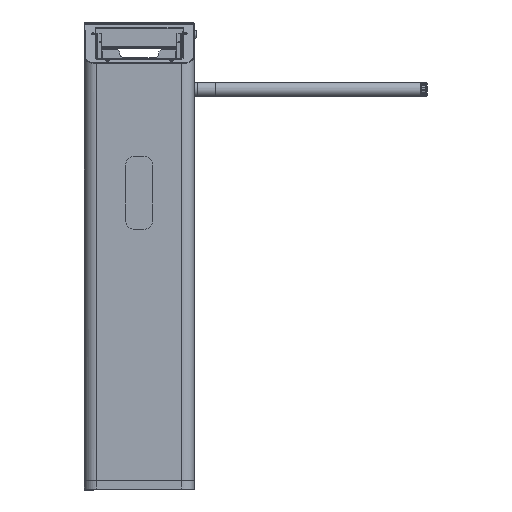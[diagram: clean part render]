
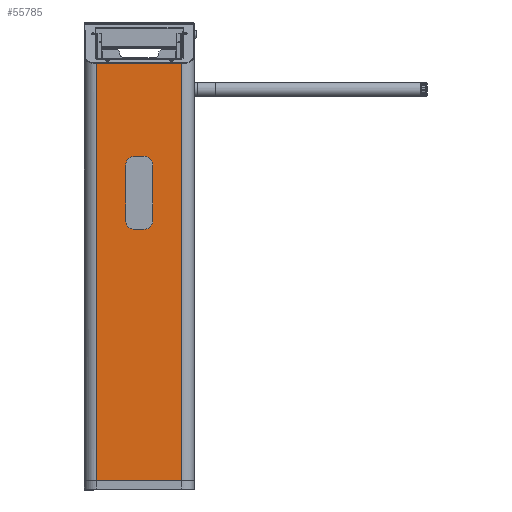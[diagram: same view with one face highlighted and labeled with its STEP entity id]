
A CAD part, left-side view. The second image highlights one B-rep face of the part: STEP entity #55785.
In plain terms, the highlighted planar face has unit normal (-1, 0, 0).
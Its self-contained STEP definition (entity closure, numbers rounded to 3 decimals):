
#3910=CIRCLE('',#71858,20.);
#3912=CIRCLE('',#71862,20.);
#3914=CIRCLE('',#71866,20.);
#3916=CIRCLE('',#71870,20.);
#16962=ORIENTED_EDGE('',*,*,#27230,.F.);
#16963=ORIENTED_EDGE('',*,*,#27210,.T.);
#16964=ORIENTED_EDGE('',*,*,#27232,.T.);
#16965=ORIENTED_EDGE('',*,*,#27233,.T.);
#16966=ORIENTED_EDGE('',*,*,#27176,.F.);
#16967=ORIENTED_EDGE('',*,*,#27198,.F.);
#16968=ORIENTED_EDGE('',*,*,#27195,.F.);
#16969=ORIENTED_EDGE('',*,*,#27192,.F.);
#16970=ORIENTED_EDGE('',*,*,#27189,.F.);
#16971=ORIENTED_EDGE('',*,*,#27186,.F.);
#16972=ORIENTED_EDGE('',*,*,#27183,.F.);
#16973=ORIENTED_EDGE('',*,*,#27180,.F.);
#27176=EDGE_CURVE('',#33097,#33098,#37277,.T.);
#27180=EDGE_CURVE('',#33098,#33101,#3910,.T.);
#27183=EDGE_CURVE('',#33101,#33103,#37282,.T.);
#27186=EDGE_CURVE('',#33103,#33105,#3912,.T.);
#27189=EDGE_CURVE('',#33105,#33107,#37286,.T.);
#27192=EDGE_CURVE('',#33107,#33109,#3914,.T.);
#27195=EDGE_CURVE('',#33109,#33111,#37290,.T.);
#27198=EDGE_CURVE('',#33111,#33097,#3916,.T.);
#27210=EDGE_CURVE('',#33124,#33123,#37297,.T.);
#27230=EDGE_CURVE('',#33124,#33139,#37310,.T.);
#27232=EDGE_CURVE('',#33123,#33140,#37311,.T.);
#27233=EDGE_CURVE('',#33140,#33139,#37312,.T.);
#33097=VERTEX_POINT('',#120847);
#33098=VERTEX_POINT('',#120848);
#33101=VERTEX_POINT('',#120856);
#33103=VERTEX_POINT('',#120862);
#33105=VERTEX_POINT('',#120868);
#33107=VERTEX_POINT('',#120874);
#33109=VERTEX_POINT('',#120880);
#33111=VERTEX_POINT('',#120886);
#33123=VERTEX_POINT('',#120916);
#33124=VERTEX_POINT('',#120918);
#33139=VERTEX_POINT('',#120956);
#33140=VERTEX_POINT('',#120960);
#37277=LINE('',#120846,#41568);
#37282=LINE('',#120861,#41573);
#37286=LINE('',#120873,#41577);
#37290=LINE('',#120885,#41581);
#37297=LINE('',#120917,#41588);
#37310=LINE('',#120955,#41601);
#37311=LINE('',#120959,#41602);
#37312=LINE('',#120961,#41603);
#41568=VECTOR('',#83693,1000.);
#41573=VECTOR('',#83706,1000.);
#41577=VECTOR('',#83718,1000.);
#41581=VECTOR('',#83730,1000.);
#41588=VECTOR('',#83761,1000.);
#41601=VECTOR('',#83794,1000.);
#41602=VECTOR('',#83799,1000.);
#41603=VECTOR('',#83800,1000.);
#46180=EDGE_LOOP('',(#16962,#16963,#16964,#16965));
#46181=EDGE_LOOP('',(#16966,#16967,#16968,#16969,#16970,#16971,#16972,#16973));
#50526=FACE_BOUND('',#46180,.T.);
#50527=FACE_BOUND('',#46181,.T.);
#52768=PLANE('',#71892);
#55785=ADVANCED_FACE('',(#50526,#50527),#52768,.F.);
#71858=AXIS2_PLACEMENT_3D('',#120855,#83699,#83700);
#71862=AXIS2_PLACEMENT_3D('',#120867,#83711,#83712);
#71866=AXIS2_PLACEMENT_3D('',#120879,#83723,#83724);
#71870=AXIS2_PLACEMENT_3D('',#120891,#83735,#83736);
#71892=AXIS2_PLACEMENT_3D('',#120958,#83797,#83798);
#83693=DIRECTION('',(0.,0.,1.));
#83699=DIRECTION('',(-1.,0.,0.));
#83700=DIRECTION('',(0.,1.,0.));
#83706=DIRECTION('',(0.,1.,0.));
#83711=DIRECTION('',(-1.,0.,0.));
#83712=DIRECTION('',(0.,-1.,0.));
#83718=DIRECTION('',(0.,0.,-1.));
#83723=DIRECTION('',(-1.,0.,0.));
#83724=DIRECTION('',(0.,-1.,0.));
#83730=DIRECTION('',(0.,-1.,0.));
#83735=DIRECTION('',(-1.,0.,0.));
#83736=DIRECTION('',(0.,-1.,0.));
#83761=DIRECTION('',(0.,1.,0.));
#83794=DIRECTION('',(0.,0.,-1.));
#83797=DIRECTION('',(1.,0.,0.));
#83798=DIRECTION('',(0.,1.,0.));
#83799=DIRECTION('',(0.,0.,-1.));
#83800=DIRECTION('',(0.,-1.,0.));
#120846=CARTESIAN_POINT('',(-681.,-30.,710.5));
#120847=CARTESIAN_POINT('',(-681.,-30.,590.5));
#120848=CARTESIAN_POINT('',(-681.,-30.,710.5));
#120855=CARTESIAN_POINT('',(-681.,-10.,710.5));
#120856=CARTESIAN_POINT('',(-681.,-10.,730.5));
#120861=CARTESIAN_POINT('',(-681.,10.,730.5));
#120862=CARTESIAN_POINT('',(-681.,10.,730.5));
#120867=CARTESIAN_POINT('',(-681.,10.,710.5));
#120868=CARTESIAN_POINT('',(-681.,30.,710.5));
#120873=CARTESIAN_POINT('',(-681.,30.,710.5));
#120874=CARTESIAN_POINT('',(-681.,30.,590.5));
#120879=CARTESIAN_POINT('',(-681.,10.,590.5));
#120880=CARTESIAN_POINT('',(-681.,10.,570.5));
#120885=CARTESIAN_POINT('',(-681.,10.,570.5));
#120886=CARTESIAN_POINT('',(-681.,-10.,570.5));
#120891=CARTESIAN_POINT('',(-681.,-10.,590.5));
#120916=CARTESIAN_POINT('',(-681.,93.5,933.088));
#120917=CARTESIAN_POINT('',(-681.,-93.5,933.088));
#120918=CARTESIAN_POINT('',(-681.,-93.5,933.088));
#120955=CARTESIAN_POINT('',(-681.,-93.5,1016.5));
#120956=CARTESIAN_POINT('',(-681.,-93.5,20.5));
#120958=CARTESIAN_POINT('',(-681.,-93.5,1016.5));
#120959=CARTESIAN_POINT('',(-681.,93.5,1016.5));
#120960=CARTESIAN_POINT('',(-681.,93.5,20.5));
#120961=CARTESIAN_POINT('',(-681.,-93.5,20.5));
